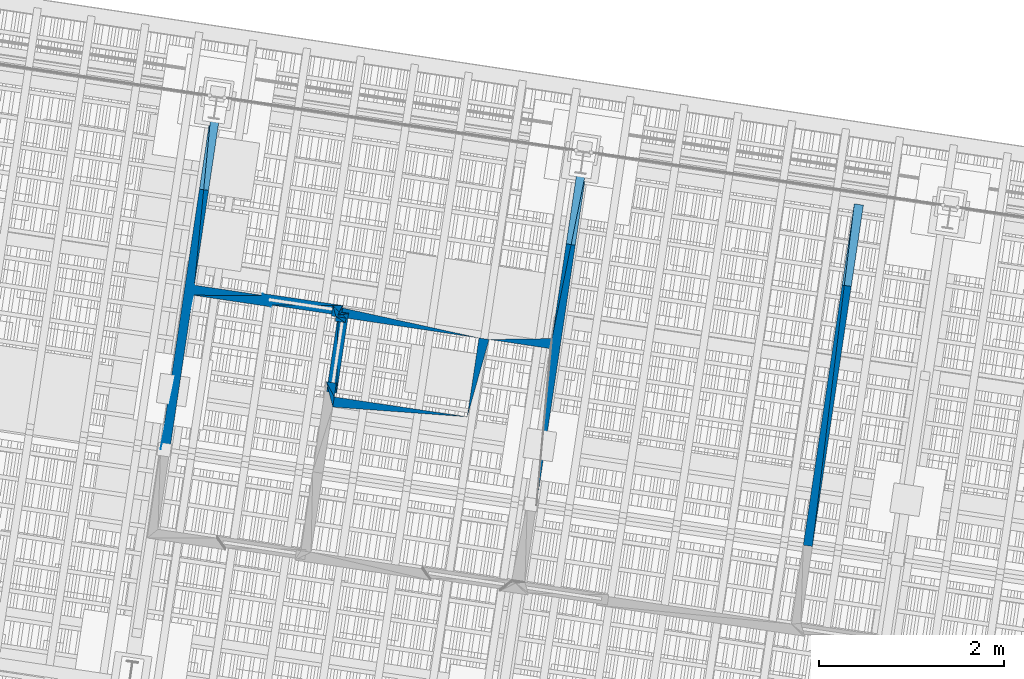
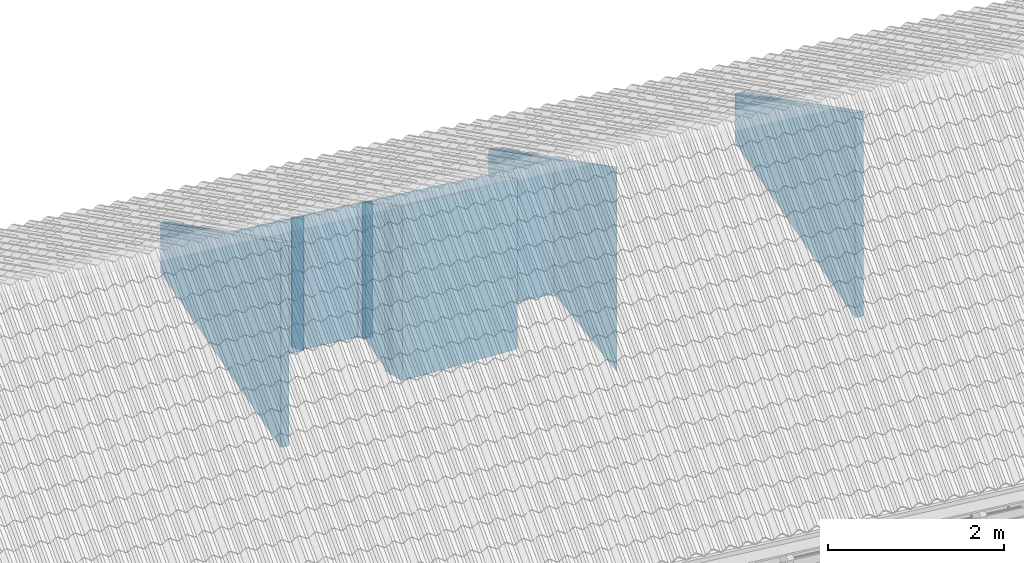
# One storey, part 125 of 131: 28 walls.
"""IFC4 building model written with IfcOpenShell, lengths in metres."""

from ifc_helpers import new_model, si_unit, direction, frame, origin_with_axes, place, context, subcontext, project, spatial, polygons, material, element, save


model = new_model("IFC4")

# Units and contexts
model_context = context("Model", 3, precision=1e-05, world=origin_with_axes(), true_north=direction((0.0, 1.0)))
body_context = subcontext(model_context, "Body", "Model", "MODEL_VIEW")
ifc_project = project(units=[si_unit("VOLUMEUNIT", "CUBIC_METRE"), si_unit("LENGTHUNIT", "METRE"), si_unit("AREAUNIT", "SQUARE_METRE")], contexts=[model_context])

# Site, building, storey
site_placement = place(None, origin_with_axes())
site = spatial("IfcSite", under=ifc_project, at=site_placement, Name="Lares · Rua das Mercês · artigo 4771")
building_placement = place(site_placement, frame((15.0, 9.7, 15.8), z_axis=(0.0, 0.0, 1.0), x_axis=(0.989015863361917, -0.147809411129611, 0.0)))
building = spatial("IfcBuilding", under=site, at=building_placement, Name="Casa Sobreposta")
storey_placement = place(building_placement, origin_with_axes())
storey = spatial("IfcBuildingStorey", under=building, at=storey_placement, Name="00 · Habitação e estacionamento", Elevation=15.8)

# Walls
ifc_material = material(Name="OSB", Category="wood")
wall_1_placement = place(storey_placement, origin_with_axes())
element("IfcWall", 1, at=wall_1_placement, inside=storey, material=ifc_material, Name="Divisória · prolongamento até ao forro", context=body_context, shape_type="Tessellation", body=[
    polygons([(7.96000000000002, 6.27299999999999, 3.05), (7.96000000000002, 2.55, 3.05), (8.05999999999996, 4.35299999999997, 3.05), (7.96000000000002, 6.27299999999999, 3.73973364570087), (7.96000000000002, 2.55, 5.88920869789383), (8.05999999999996, 4.35299999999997, 4.84824616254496)], [[[3, 2, 1]], [[4, 5, 6]], [[1, 2, 5, 4]], [[2, 3, 6, 5]], [[3, 1, 4, 6]]]),
])
wall_2_placement = place(storey_placement, origin_with_axes())
element("IfcWall", 2, at=wall_2_placement, inside=storey, material=ifc_material, Name="Divisória · prolongamento até ao forro", context=body_context, shape_type="Tessellation", body=[
    polygons([(7.96000000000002, 6.27299999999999, 3.05), (8.05999999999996, 4.35299999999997, 3.05), (8.05999999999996, 6.27299999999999, 3.05), (7.96000000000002, 6.27299999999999, 3.73973364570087), (8.05999999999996, 4.35299999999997, 4.84824616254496), (8.05999999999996, 6.27299999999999, 3.73973364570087)], [[[3, 2, 1]], [[4, 5, 6]], [[1, 2, 5, 4]], [[2, 3, 6, 5]], [[3, 1, 4, 6]]]),
])
wall_3_placement = place(storey_placement, origin_with_axes())
element("IfcWall", 3, at=wall_3_placement, inside=storey, material=ifc_material, Name="Divisória · prolongamento até ao forro", context=body_context, shape_type="Tessellation", body=[
    polygons([(9.74955631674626, 4.29756574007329, 3.05), (9.67461809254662, 4.29755537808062, 3.05), (9.63956117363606, 4.26243297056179, 3.05), (9.74955631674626, 4.29756574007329, 4.88025114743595), (9.67461809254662, 4.29755537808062, 4.88025712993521), (9.63956117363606, 4.26243297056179, 4.90053506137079)], [[[3, 2, 1]], [[4, 5, 6]], [[1, 2, 5, 4]], [[2, 3, 6, 5]], [[3, 1, 4, 6]]]),
])
wall_4_placement = place(storey_placement, origin_with_axes())
element("IfcWall", 4, at=wall_4_placement, inside=storey, material=ifc_material, Name="Divisória · prolongamento até ao forro", context=body_context, shape_type="Tessellation", body=[
    polygons([(9.74955631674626, 4.29756574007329, 3.05), (9.63956117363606, 4.26243297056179, 3.05), (9.74967661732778, 3.42754853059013, 3.05), (9.74955631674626, 4.29756574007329, 4.88025114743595), (9.63956117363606, 4.26243297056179, 4.90053506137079), (9.74967661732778, 3.42754853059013, 5.38255581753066)], [[[3, 2, 1]], [[4, 5, 6]], [[1, 2, 5, 4]], [[2, 3, 6, 5]], [[3, 1, 4, 6]]]),
])
wall_5_placement = place(storey_placement, origin_with_axes())
element("IfcWall", 5, at=wall_5_placement, inside=storey, material=ifc_material, Name="Divisória · prolongamento até ao forro", context=body_context, shape_type="Tessellation", body=[
    polygons([(9.74967661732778, 3.42754853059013, 3.05), (9.63956117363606, 4.26243297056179, 3.05), (9.63967661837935, 3.4275333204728, 3.05), (9.74967661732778, 3.42754853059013, 5.38255581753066), (9.63956117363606, 4.26243297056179, 4.90053506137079), (9.63967661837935, 3.4275333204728, 5.382564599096)], [[[3, 2, 1]], [[4, 5, 6]], [[1, 2, 5, 4]], [[2, 3, 6, 5]], [[3, 1, 4, 6]]]),
])
wall_6_placement = place(storey_placement, origin_with_axes())
element("IfcWall", 6, at=wall_6_placement, inside=storey, material=ifc_material, Name="Divisória · prolongamento até ao forro", context=body_context, shape_type="Tessellation", body=[
    polygons([(8.05999999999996, 2.55, 3.05), (8.05999999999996, 4.24299999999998, 3.05), (7.96000000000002, 2.55, 3.05), (8.05999999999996, 2.55, 5.88920869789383), (8.05999999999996, 4.24299999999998, 4.91175469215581), (7.96000000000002, 2.55, 5.88920869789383)], [[[3, 2, 1]], [[4, 5, 6]], [[1, 2, 5, 4]], [[2, 3, 6, 5]], [[3, 1, 4, 6]]]),
])
wall_7_placement = place(storey_placement, origin_with_axes())
element("IfcWall", 7, at=wall_7_placement, inside=storey, material=ifc_material, Name="Divisória · prolongamento até ao forro", context=body_context, shape_type="Tessellation", body=[
    polygons([(7.96000000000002, 2.55, 3.05), (8.05999999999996, 4.24299999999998, 3.05), (8.05999999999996, 4.35299999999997, 3.05), (7.96000000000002, 2.55, 5.88920869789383), (8.05999999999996, 4.24299999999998, 4.91175469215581), (8.05999999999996, 4.35299999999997, 4.84824616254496)], [[[3, 2, 1]], [[4, 5, 6]], [[1, 2, 5, 4]], [[2, 3, 6, 5]], [[3, 1, 4, 6]]]),
])
wall_8_placement = place(storey_placement, origin_with_axes())
element("IfcWall", 8, at=wall_8_placement, inside=storey, material=ifc_material, Name="Divisória · prolongamento até ao forro", context=body_context, shape_type="Tessellation", body=[
    polygons([(8.05999999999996, 4.35299999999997, 3.05), (8.05999999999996, 4.24299999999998, 3.05), (8.80454037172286, 4.35299999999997, 3.05), (8.05999999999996, 4.35299999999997, 4.84824616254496), (8.05999999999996, 4.24299999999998, 4.91175469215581), (8.80454037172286, 4.35299999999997, 4.84824616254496)], [[[3, 2, 1]], [[4, 5, 6]], [[1, 2, 5, 4]], [[2, 3, 6, 5]], [[3, 1, 4, 6]]]),
])
wall_9_placement = place(storey_placement, origin_with_axes())
element("IfcWall", 9, at=wall_9_placement, inside=storey, material=ifc_material, Name="Divisória · prolongamento até ao forro", context=body_context, shape_type="Tessellation", body=[
    polygons([(8.80454322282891, 4.37255471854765, 3.05), (8.80454037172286, 4.35299999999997, 3.05), (8.90999999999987, 4.26253934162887, 3.05), (8.80454322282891, 4.37255471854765, 4.83695624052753), (8.80454037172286, 4.35299999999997, 4.84824616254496), (8.90999999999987, 4.26253934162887, 4.90047364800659)], [[[3, 2, 1]], [[4, 5, 6]], [[1, 2, 5, 4]], [[2, 3, 6, 5]], [[3, 1, 4, 6]]]),
])
wall_10_placement = place(storey_placement, origin_with_axes())
element("IfcWall", 10, at=wall_10_placement, inside=storey, material=ifc_material, Name="Divisória · prolongamento até ao forro", context=body_context, shape_type="Tessellation", body=[
    polygons([(8.80454322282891, 4.37255471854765, 3.05), (8.90999999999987, 4.26253934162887, 3.05), (9.67462900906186, 4.37242785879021, 3.05), (8.80454322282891, 4.37255471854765, 4.83695624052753), (8.90999999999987, 4.26253934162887, 4.90047364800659), (9.67462900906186, 4.37242785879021, 4.83702948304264)], [[[3, 2, 1]], [[4, 5, 6]], [[1, 2, 5, 4]], [[2, 3, 6, 5]], [[3, 1, 4, 6]]]),
])
wall_11_placement = place(storey_placement, origin_with_axes())
element("IfcWall", 11, at=wall_11_placement, inside=storey, material=ifc_material, Name="Divisória · prolongamento até ao forro", context=body_context, shape_type="Tessellation", body=[
    polygons([(9.67462900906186, 4.37242785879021, 3.05), (8.90999999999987, 4.26253934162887, 3.05), (9.63956117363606, 4.26243297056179, 3.05), (9.67462900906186, 4.37242785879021, 4.83702948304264), (8.90999999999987, 4.26253934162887, 4.90047364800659), (9.63956117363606, 4.26243297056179, 4.90053506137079)], [[[3, 2, 1]], [[4, 5, 6]], [[1, 2, 5, 4]], [[2, 3, 6, 5]], [[3, 1, 4, 6]]]),
])
wall_12_placement = place(storey_placement, origin_with_axes())
element("IfcWall", 12, at=wall_12_placement, inside=storey, material=ifc_material, Name="Divisória · prolongamento até ao forro", context=body_context, shape_type="Tessellation", body=[
    polygons([(9.67462900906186, 4.37242785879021, 3.05), (9.63956117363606, 4.26243297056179, 3.05), (9.67461809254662, 4.29755537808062, 3.05), (9.67462900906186, 4.37242785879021, 4.83702948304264), (9.63956117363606, 4.26243297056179, 4.90053506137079), (9.67461809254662, 4.29755537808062, 4.88025712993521)], [[[3, 2, 1]], [[4, 5, 6]], [[1, 2, 5, 4]], [[2, 3, 6, 5]], [[3, 1, 4, 6]]]),
])
wall_13_placement = place(storey_placement, origin_with_axes())
element("IfcWall", 13, at=wall_13_placement, inside=storey, material=ifc_material, Name="Divisória · prolongamento até ao forro", context=body_context, shape_type="Tessellation", body=[
    polygons([(8.90999999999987, 4.24299999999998, 3.05), (8.90999999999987, 4.26253934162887, 3.05), (8.80454037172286, 4.35299999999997, 3.05), (8.90999999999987, 4.24299999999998, 4.91175469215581), (8.90999999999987, 4.26253934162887, 4.90047364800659), (8.80454037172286, 4.35299999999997, 4.84824616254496)], [[[3, 2, 1]], [[4, 5, 6]], [[1, 2, 5, 4]], [[2, 3, 6, 5]], [[3, 1, 4, 6]]]),
])
wall_14_placement = place(storey_placement, origin_with_axes())
element("IfcWall", 14, at=wall_14_placement, inside=storey, material=ifc_material, Name="Divisória · prolongamento até ao forro", context=body_context, shape_type="Tessellation", body=[
    polygons([(8.90999999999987, 4.24299999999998, 3.05), (8.80454037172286, 4.35299999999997, 3.05), (8.05999999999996, 4.24299999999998, 3.05), (8.90999999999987, 4.24299999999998, 4.91175469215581), (8.80454037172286, 4.35299999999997, 4.84824616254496), (8.05999999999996, 4.24299999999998, 4.91175469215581)], [[[3, 2, 1]], [[4, 5, 6]], [[1, 2, 5, 4]], [[2, 3, 6, 5]], [[3, 1, 4, 6]]]),
])
wall_15_placement = place(storey_placement, origin_with_axes())
element("IfcWall", 15, at=wall_15_placement, inside=storey, material=ifc_material, Name="Divisória · prolongamento até ao forro", context=body_context, shape_type="Tessellation", body=[
    polygons([(9.56999999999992, 4.35299999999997, 3.05), (9.56999999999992, 4.24299999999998, 3.05), (9.61999999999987, 4.24299999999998, 3.05), (9.56999999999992, 4.35299999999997, 4.84824616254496), (9.56999999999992, 4.24299999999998, 4.91175469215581), (9.61999999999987, 4.24299999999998, 4.91175469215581)], [[[3, 2, 1]], [[4, 5, 6]], [[1, 2, 5, 4]], [[2, 3, 6, 5]], [[3, 1, 4, 6]]]),
])
wall_16_placement = place(storey_placement, origin_with_axes())
element("IfcWall", 16, at=wall_16_placement, inside=storey, material=ifc_material, Name="Divisória · prolongamento até ao forro", context=body_context, shape_type="Tessellation", body=[
    polygons([(9.56999999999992, 4.35299999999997, 3.05), (9.61999999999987, 4.24299999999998, 3.05), (9.72999999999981, 4.24299999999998, 3.05), (9.56999999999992, 4.35299999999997, 4.84824616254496), (9.61999999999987, 4.24299999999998, 4.91175469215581), (9.72999999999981, 4.24299999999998, 4.91175469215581)], [[[3, 2, 1]], [[4, 5, 6]], [[1, 2, 5, 4]], [[2, 3, 6, 5]], [[3, 1, 4, 6]]]),
])
wall_17_placement = place(storey_placement, origin_with_axes())
element("IfcWall", 17, at=wall_17_placement, inside=storey, material=ifc_material, Name="Divisória · prolongamento até ao forro", context=body_context, shape_type="Tessellation", body=[
    polygons([(9.56999999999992, 4.35299999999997, 3.05), (9.72999999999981, 4.24299999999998, 3.05), (11.1799999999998, 4.24299999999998, 3.05), (9.56999999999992, 4.35299999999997, 4.84824616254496), (9.72999999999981, 4.24299999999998, 4.91175469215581), (11.1799999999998, 4.24299999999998, 4.91175469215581)], [[[3, 2, 1]], [[4, 5, 6]], [[1, 2, 5, 4]], [[2, 3, 6, 5]], [[3, 1, 4, 6]]]),
])
wall_18_placement = place(storey_placement, origin_with_axes())
element("IfcWall", 18, at=wall_18_placement, inside=storey, material=ifc_material, Name="Divisória · prolongamento até ao forro", context=body_context, shape_type="Tessellation", body=[
    polygons([(11.96, 6.27299999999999, 3.05), (11.96, 4.35299999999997, 3.05), (12.06, 6.27299999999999, 3.05), (11.96, 6.27299999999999, 3.73973364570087), (11.96, 4.35299999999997, 4.84824616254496), (12.06, 6.27299999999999, 3.73973364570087)], [[[3, 2, 1]], [[4, 5, 6]], [[1, 2, 5, 4]], [[2, 3, 6, 5]], [[3, 1, 4, 6]]]),
])
wall_19_placement = place(storey_placement, origin_with_axes())
element("IfcWall", 19, at=wall_19_placement, inside=storey, material=ifc_material, Name="Divisória · prolongamento até ao forro", context=body_context, shape_type="Tessellation", body=[
    polygons([(12.06, 6.27299999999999, 3.05), (11.96, 4.35299999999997, 3.05), (12.06, 2.55, 3.05), (12.06, 6.27299999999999, 3.73973364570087), (11.96, 4.35299999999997, 4.84824616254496), (12.06, 2.55, 5.88920869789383)], [[[3, 2, 1]], [[4, 5, 6]], [[1, 2, 5, 4]], [[2, 3, 6, 5]], [[3, 1, 4, 6]]]),
])
wall_20_placement = place(storey_placement, origin_with_axes())
element("IfcWall", 20, at=wall_20_placement, inside=storey, material=ifc_material, Name="Divisória · prolongamento até ao forro", context=body_context, shape_type="Tessellation", body=[
    polygons([(9.61999999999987, 4.24299999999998, 3.05), (9.61999999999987, 4.19299999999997, 3.05), (9.72999999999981, 4.19299999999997, 3.05), (9.61999999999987, 4.24299999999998, 4.91175469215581), (9.61999999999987, 4.19299999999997, 4.9406222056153), (9.72999999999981, 4.19299999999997, 4.9406222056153)], [[[3, 2, 1]], [[4, 5, 6]], [[1, 2, 5, 4]], [[2, 3, 6, 5]], [[3, 1, 4, 6]]]),
])
wall_21_placement = place(storey_placement, origin_with_axes())
element("IfcWall", 21, at=wall_21_placement, inside=storey, material=ifc_material, Name="Divisória · prolongamento até ao forro", context=body_context, shape_type="Tessellation", body=[
    polygons([(9.61999999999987, 4.24299999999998, 3.05), (9.72999999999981, 4.19299999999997, 3.05), (9.72999999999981, 4.24299999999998, 3.05), (9.61999999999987, 4.24299999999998, 4.91175469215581), (9.72999999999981, 4.19299999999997, 4.9406222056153), (9.72999999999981, 4.24299999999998, 4.91175469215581)], [[[3, 2, 1]], [[4, 5, 6]], [[1, 2, 5, 4]], [[2, 3, 6, 5]], [[3, 1, 4, 6]]]),
])
wall_22_placement = place(storey_placement, origin_with_axes())
element("IfcWall", 22, at=wall_22_placement, inside=storey, material=ifc_material, Name="Divisória · prolongamento até ao forro", context=body_context, shape_type="Tessellation", body=[
    polygons([(11.1799999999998, 4.24299999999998, 3.05), (11.1799999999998, 3.383, 3.05), (11.29, 4.24299999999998, 3.05), (11.1799999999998, 4.24299999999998, 4.91175469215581), (11.1799999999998, 3.383, 5.40827592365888), (11.29, 4.24299999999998, 4.91175469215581)], [[[3, 2, 1]], [[4, 5, 6]], [[1, 2, 5, 4]], [[2, 3, 6, 5]], [[3, 1, 4, 6]]]),
])
wall_23_placement = place(storey_placement, origin_with_axes())
element("IfcWall", 23, at=wall_23_placement, inside=storey, material=ifc_material, Name="Divisória · prolongamento até ao forro", context=body_context, shape_type="Tessellation", body=[
    polygons([(11.29, 4.24299999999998, 3.05), (11.96, 4.24299999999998, 3.05), (11.96, 4.35299999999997, 3.05), (11.29, 4.24299999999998, 4.91175469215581), (11.96, 4.24299999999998, 4.91175469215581), (11.96, 4.35299999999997, 4.84824616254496)], [[[3, 2, 1]], [[4, 5, 6]], [[1, 2, 5, 4]], [[2, 3, 6, 5]], [[3, 1, 4, 6]]]),
])
wall_24_placement = place(storey_placement, origin_with_axes())
element("IfcWall", 24, at=wall_24_placement, inside=storey, material=ifc_material, Name="Divisória · prolongamento até ao forro", context=body_context, shape_type="Tessellation", body=[
    polygons([(11.1799999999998, 3.383, 3.05), (9.72999999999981, 3.383, 3.05), (9.72999999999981, 3.27300000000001, 3.05), (11.1799999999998, 3.383, 5.40827592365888), (9.72999999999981, 3.383, 5.40827592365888), (9.72999999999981, 3.27300000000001, 5.47178445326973)], [[[3, 2, 1]], [[4, 5, 6]], [[1, 2, 5, 4]], [[2, 3, 6, 5]], [[3, 1, 4, 6]]]),
])
wall_25_placement = place(storey_placement, origin_with_axes())
element("IfcWall", 25, at=wall_25_placement, inside=storey, material=ifc_material, Name="Divisória · prolongamento até ao forro", context=body_context, shape_type="Tessellation", body=[
    polygons([(9.72999999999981, 3.27300000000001, 3.05), (9.72999999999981, 3.383, 3.05), (9.61999999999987, 3.53299999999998, 3.05), (9.72999999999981, 3.27300000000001, 5.47178445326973), (9.72999999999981, 3.383, 5.40827592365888), (9.61999999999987, 3.53299999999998, 5.32167338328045)], [[[3, 2, 1]], [[4, 5, 6]], [[1, 2, 5, 4]], [[2, 3, 6, 5]], [[3, 1, 4, 6]]]),
])
wall_26_placement = place(storey_placement, origin_with_axes())
element("IfcWall", 26, at=wall_26_placement, inside=storey, material=ifc_material, Name="Divisória · prolongamento até ao forro", context=body_context, shape_type="Tessellation", body=[
    polygons([(9.61999999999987, 3.53299999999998, 3.05), (9.72999999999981, 3.383, 3.05), (9.72999999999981, 3.53299999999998, 3.05), (9.61999999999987, 3.53299999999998, 5.32167338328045), (9.72999999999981, 3.383, 5.40827592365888), (9.72999999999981, 3.53299999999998, 5.32167338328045)], [[[3, 2, 1]], [[4, 5, 6]], [[1, 2, 5, 4]], [[2, 3, 6, 5]], [[3, 1, 4, 6]]]),
])
wall_27_placement = place(storey_placement, origin_with_axes())
element("IfcWall", 27, at=wall_27_placement, inside=storey, material=ifc_material, Name="Divisória · prolongamento até ao forro", context=body_context, shape_type="Tessellation", body=[
    polygons([(14.97, 6.27299999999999, 3.05), (14.97, 2.55, 3.05), (15.07, 2.55, 3.05), (14.97, 6.27299999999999, 3.73973364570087), (14.97, 2.55, 5.88920869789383), (15.07, 2.55, 5.88920869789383)], [[[3, 2, 1]], [[4, 5, 6]], [[1, 2, 5, 4]], [[2, 3, 6, 5]], [[3, 1, 4, 6]]]),
])
wall_28_placement = place(storey_placement, origin_with_axes())
element("IfcWall", 28, at=wall_28_placement, inside=storey, material=ifc_material, Name="Divisória · prolongamento até ao forro", context=body_context, shape_type="Tessellation", body=[
    polygons([(14.97, 6.27299999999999, 3.05), (15.07, 2.55, 3.05), (15.07, 6.27299999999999, 3.05), (14.97, 6.27299999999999, 3.73973364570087), (15.07, 2.55, 5.88920869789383), (15.07, 6.27299999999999, 3.73973364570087)], [[[3, 2, 1]], [[4, 5, 6]], [[1, 2, 5, 4]], [[2, 3, 6, 5]], [[3, 1, 4, 6]]]),
])

save(model, "model.ifc")
